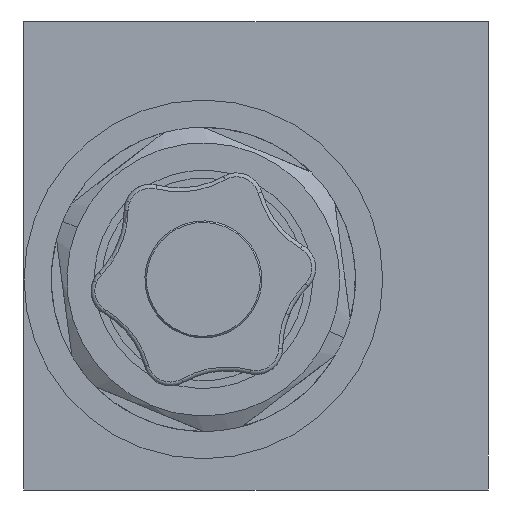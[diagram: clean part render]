
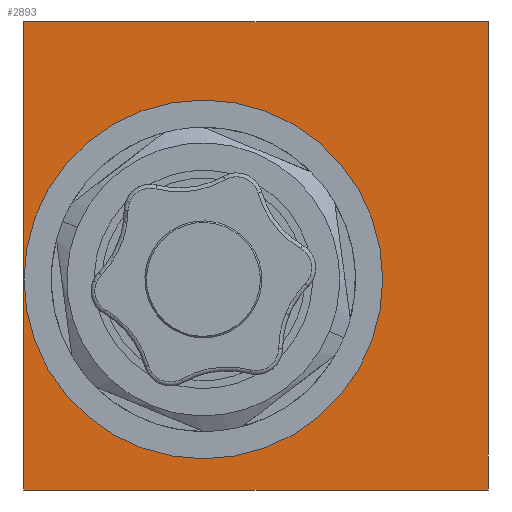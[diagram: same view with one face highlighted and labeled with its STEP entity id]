
A CAD part, left-side view. The second image highlights one B-rep face of the part: STEP entity #2893.
In plain terms, the highlighted planar face has unit normal (-1, 0, 0).
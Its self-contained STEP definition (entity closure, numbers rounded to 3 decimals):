
#410 = CIRCLE ( 'NONE', #2075, 23. ) ;
#561 = VERTEX_POINT ( 'NONE', #16038 ) ;
#684 = EDGE_LOOP ( 'NONE', ( #7800, #7762 ) ) ;
#872 = LINE ( 'NONE', #13233, #7786 ) ;
#1248 = EDGE_LOOP ( 'NONE', ( #7900, #7839, #15511, #8410 ) ) ;
#2033 = FACE_BOUND ( 'NONE', #684, .T. ) ;
#2075 = AXIS2_PLACEMENT_3D ( 'NONE', #10842, #10782, #10710 ) ;
#2207 = CARTESIAN_POINT ( 'NONE',  ( 0., 29.75, -30. ) ) ;
#2702 = EDGE_CURVE ( 'NONE', #561, #16574, #6171, .T. ) ;
#2893 = ADVANCED_FACE ( 'NONE', ( #10590, #2033 ), #14198, .T. ) ;
#3346 = VECTOR ( 'NONE', #12715, 1000. ) ;
#3361 = DIRECTION ( 'NONE',  ( 0., 0., 1. ) ) ;
#3489 = EDGE_CURVE ( 'NONE', #12911, #8853, #872, .T. ) ;
#3696 = CARTESIAN_POINT ( 'NONE',  ( 0., 29.75, 30. ) ) ;
#3707 = VERTEX_POINT ( 'NONE', #12482 ) ;
#4167 = CARTESIAN_POINT ( 'NONE',  ( 0., -29.75, 30. ) ) ;
#4190 = DIRECTION ( 'NONE',  ( 0., 0., -1. ) ) ;
#4916 = LINE ( 'NONE', #3696, #15137 ) ;
#5611 = EDGE_CURVE ( 'NONE', #16574, #12911, #15119, .T. ) ;
#5920 = EDGE_CURVE ( 'NONE', #8853, #561, #4916, .T. ) ;
#6171 = LINE ( 'NONE', #12992, #3346 ) ;
#7762 = ORIENTED_EDGE ( 'NONE', *, *, #14975, .F. ) ;
#7786 = VECTOR ( 'NONE', #13068, 1000. ) ;
#7800 = ORIENTED_EDGE ( 'NONE', *, *, #8642, .F. ) ;
#7839 = ORIENTED_EDGE ( 'NONE', *, *, #5611, .F. ) ;
#7900 = ORIENTED_EDGE ( 'NONE', *, *, #3489, .F. ) ;
#8410 = ORIENTED_EDGE ( 'NONE', *, *, #5920, .F. ) ;
#8642 = EDGE_CURVE ( 'NONE', #10736, #3707, #410, .T. ) ;
#8853 = VERTEX_POINT ( 'NONE', #2207 ) ;
#9708 = CIRCLE ( 'NONE', #15373, 23. ) ;
#10180 = CARTESIAN_POINT ( 'NONE',  ( 0., -29.75, -30. ) ) ;
#10205 = VECTOR ( 'NONE', #4190, 1000. ) ;
#10217 = AXIS2_PLACEMENT_3D ( 'NONE', #13865, #13820, #13769 ) ;
#10590 = FACE_OUTER_BOUND ( 'NONE', #1248, .T. ) ;
#10710 = DIRECTION ( 'NONE',  ( 0., 0., 1. ) ) ;
#10736 = VERTEX_POINT ( 'NONE', #12993 ) ;
#10782 = DIRECTION ( 'NONE',  ( -1., 0., 0. ) ) ;
#10842 = CARTESIAN_POINT ( 'NONE',  ( 0., 6.749, -3. ) ) ;
#12482 = CARTESIAN_POINT ( 'NONE',  ( 0., 6.749, -26. ) ) ;
#12715 = DIRECTION ( 'NONE',  ( 0., -1., 0. ) ) ;
#12911 = VERTEX_POINT ( 'NONE', #10180 ) ;
#12992 = CARTESIAN_POINT ( 'NONE',  ( 0., -29.75, 30. ) ) ;
#12993 = CARTESIAN_POINT ( 'NONE',  ( 0., 6.749, 20. ) ) ;
#13068 = DIRECTION ( 'NONE',  ( 0., 1., 0. ) ) ;
#13233 = CARTESIAN_POINT ( 'NONE',  ( 0., -29.75, -30. ) ) ;
#13643 = DIRECTION ( 'NONE',  ( 0., 0., 1. ) ) ;
#13728 = DIRECTION ( 'NONE',  ( -1., 0., 0. ) ) ;
#13769 = DIRECTION ( 'NONE',  ( 0., 0., 1. ) ) ;
#13787 = CARTESIAN_POINT ( 'NONE',  ( 0., 6.749, -3. ) ) ;
#13820 = DIRECTION ( 'NONE',  ( -1., 0., 0. ) ) ;
#13865 = CARTESIAN_POINT ( 'NONE',  ( 0., 29.75, -30. ) ) ;
#14198 = PLANE ( 'NONE',  #10217 ) ;
#14975 = EDGE_CURVE ( 'NONE', #3707, #10736, #9708, .T. ) ;
#15119 = LINE ( 'NONE', #4167, #10205 ) ;
#15137 = VECTOR ( 'NONE', #3361, 1000. ) ;
#15253 = CARTESIAN_POINT ( 'NONE',  ( 0., -29.75, 30. ) ) ;
#15373 = AXIS2_PLACEMENT_3D ( 'NONE', #13787, #13728, #13643 ) ;
#15511 = ORIENTED_EDGE ( 'NONE', *, *, #2702, .F. ) ;
#16038 = CARTESIAN_POINT ( 'NONE',  ( 0., 29.75, 30. ) ) ;
#16574 = VERTEX_POINT ( 'NONE', #15253 ) ;
